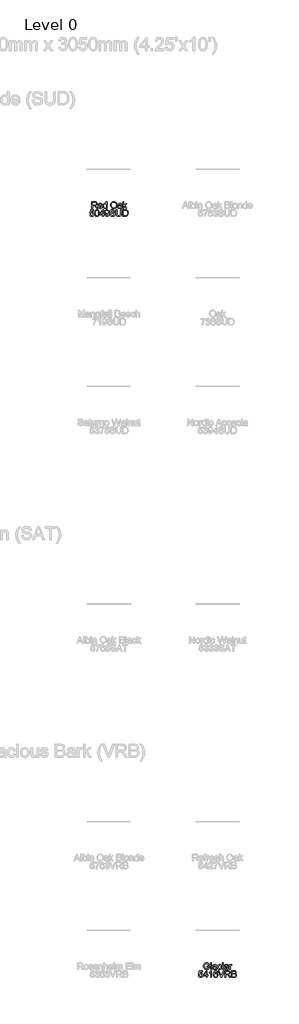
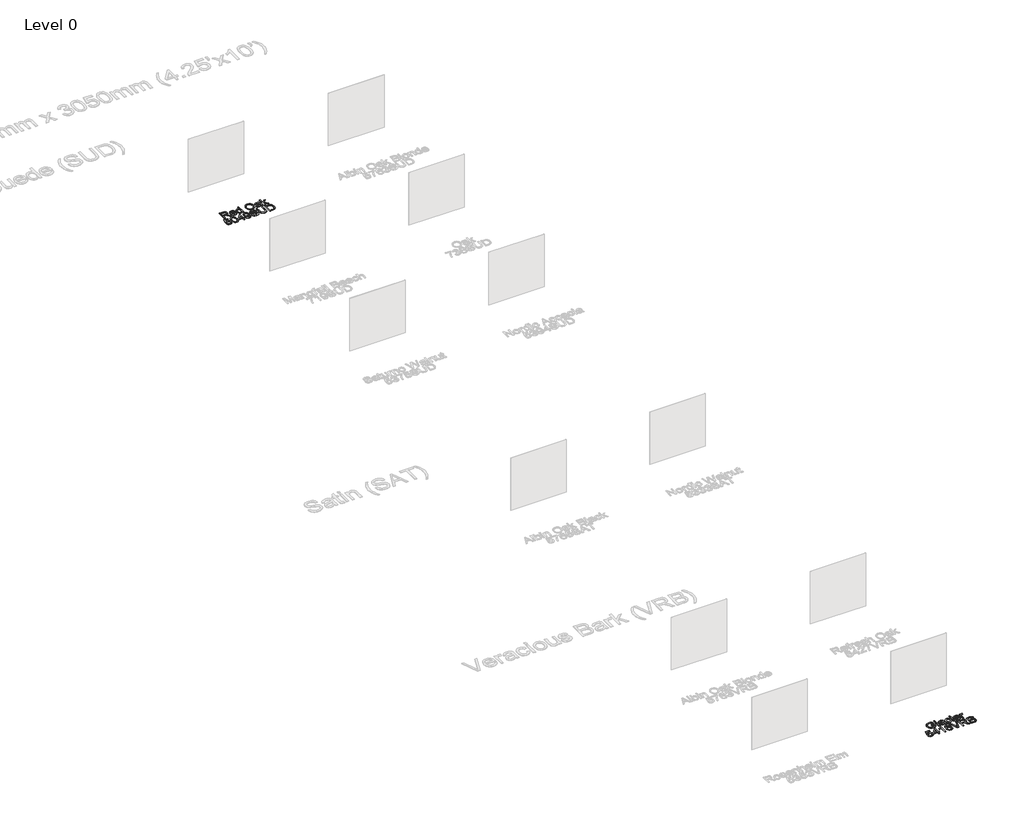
# One storey, part 14 of 43: 2 proxies.
"""IFC4 building model written with IfcOpenShell, lengths in millimetres."""

from ifc_helpers import new_model, si_unit, origin, origin_with_axes, place, context, project, spatial, polyline, outline, extrude, element, save

model = new_model("IFC4")

# Units and contexts
model_context = context("Model", 3, world=origin())
ifc_project = project(units=[si_unit("LENGTHUNIT", "METRE", prefix="MILLI")], contexts=[model_context])

# Site, building, storey
site = spatial("IfcSite", under=ifc_project)
building = spatial("IfcBuilding", under=site)
storey = spatial("IfcBuildingStorey", under=building, Name="Level 0", Elevation=0.0)

# Proxies
placement = place(None, origin())
element("IfcBuildingElementProxy", 1, Name="300mm Arial", ObjectType="300mm Arial", at=placement, inside=storey, context=model_context, shape_type="SweptSolid", body=[
    extrude(outline(polyline([(-5241.7514987, -7002.860494), (-5241.7514987, -6701.4915635), (-5111.8891544, -6701.4915635), (-5076.9863501, -6703.5241116), (-5051.5932954, -6709.6217556), (-5033.0336488, -6720.8789447), (-5018.6310687, -6738.3901276), (-5009.3880335, -6760.1043624), (-5006.3070218, -6783.9707069), (-5011.4113845, -6813.6587839), (-5026.7244726, -6838.2700893), (-5038.3242517, -6848.2994722), (-5052.7061385, -6856.3147012), (-5089.8162347, -6866.3026974), (-5068.4055026, -6882.4159288), (-5037.871297, -6921.1906911), (-4987.6186165, -7002.860494), (-5031.3965739, -7002.860494), (-5070.6127946, -6940.3941312), (-5098.9397082, -6899.0441949), (-5118.8421241, -6879.509661), (-5136.7579773, -6872.3359621), (-5158.6101678, -6871.0115869), (-5204.0803824, -6871.0115869), (-5204.0803824, -7002.860494), (-5241.7514987, -7002.860494)]), holes=[polyline([(-5204.0803824, -6833.3404706), (-5119.7618291, -6833.3404706), (-5095.5459968, -6832.0068984), (-5076.7564239, -6828.0061817), (-5062.6113612, -6821.0716061), (-5052.3290594, -6810.9364571), (-5046.0658685, -6798.6767896), (-5043.9781381, -6785.3686584), (-5047.9604607, -6766.9929528), (-5059.9074285, -6752.1857025), (-5080.462835, -6742.4184355), (-5110.2704737, -6739.1626798), (-5204.0803824, -6739.1626798), (-5204.0803824, -6833.3404706)])]), origin_with_axes(), (0.0, 0.0, 1.0), 10.0),
    extrude(outline(polyline([(-4790.1395615, -6936.9360404), (-4753.2042091, -6941.64493), (-4766.5123403, -6969.4752029), (-4787.7483285, -6990.2789297), (-4816.4339271, -7003.2467701), (-4852.0908894, -7007.5693835), (-4875.4651917, -7005.7046817), (-4896.2919112, -7000.1105761), (-4914.5710478, -6990.7870668), (-4930.3026016, -6977.7341537), (-4942.9531437, -6961.3151204), (-4951.9892452, -6941.8932503), (-4957.4109061, -6919.4685435), (-4959.2181264, -6894.0409998), (-4957.392512, -6867.7512327), (-4951.9156688, -6844.5792656), (-4942.7875968, -6824.5250983), (-4930.008296, -6807.5887309), (-4914.3181289, -6794.133447), (-4896.4574581, -6784.5225298), (-4876.4262834, -6778.7559796), (-4854.224605, -6776.8337961), (-4832.7379972, -6778.751381), (-4813.3069301, -6784.5041357), (-4795.9314036, -6794.0920602), (-4780.6114178, -6807.5151545), (-4768.1057292, -6824.4147337), (-4759.1730945, -6844.4321128), (-4753.8135137, -6867.5672917), (-4752.0269868, -6893.8202706), (-4752.247716, -6903.9738137), (-4921.5470101, -6903.9738137), (-4915.0263018, -6932.1719686), (-4899.8787606, -6952.902119), (-4878.0173731, -6965.6492302), (-4851.3551255, -6969.8982672), (-4831.3055567, -6967.9300985), (-4814.4197731, -6962.0255925), (-4800.6977747, -6951.8168672), (-4790.1395615, -6936.9360404)]), holes=[polyline([(-4921.5470101, -6866.3026974), (-4789.6981031, -6866.3026974), (-4794.7932687, -6846.4002814), (-4804.7812649, -6832.1632482), (-4826.74382, -6818.9194964), (-4854.3717578, -6814.5049125), (-4879.7648125, -6818.0273826), (-4900.7616774, -6828.5947929), (-4915.3573956, -6845.0667092), (-4921.5470101, -6866.3026974)])]), origin_with_axes(), (0.0, 0.0, 1.0), 10.0),
    extrude(outline(polyline([(-4577.7980738, -7002.860494), (-4577.7980738, -6967.3230932), (-4589.0690585, -6984.9308452), (-4602.722079, -6997.507811), (-4618.7571355, -7005.0539904), (-4637.1742279, -7007.5693835), (-4661.5280159, -7003.9273518), (-4683.8216649, -6993.0012565), (-4702.6940112, -6975.5544529), (-4716.7838916, -6952.350296), (-4725.5578772, -6924.3268851), (-4728.4825391, -6892.422319), (-4725.7878035, -6860.9132261), (-4717.7035966, -6832.4575538), (-4704.2391156, -6808.6739828), (-4685.4035574, -6791.181194), (-4662.6224649, -6780.4206456), (-4637.3213807, -6776.8337961), (-4618.8904927, -6779.3997731), (-4602.5933203, -6787.0977038), (-4588.7793514, -6798.8975188), (-4577.7980738, -6813.7691485), (-4577.7980738, -6701.4915635), (-4540.1269575, -6701.4915635), (-4540.1269575, -7002.860494), (-4577.7980738, -7002.860494)]), holes=[polyline([(-4690.8114228, -6892.2751662), (-4686.5623857, -6926.350236), (-4673.8152746, -6950.5844625), (-4655.2924161, -6965.069816), (-4633.7161371, -6969.8982672), (-4612.1490551, -6965.2905452), (-4594.0952462, -6951.4673793), (-4581.8723669, -6928.1712519), (-4577.7980738, -6895.1446458), (-4581.9459433, -6859.037028), (-4594.3895518, -6834.0026582), (-4612.9032132, -6819.3793489), (-4635.2612415, -6814.5049125), (-4657.0582497, -6819.1862108), (-4674.9189206, -6833.230106), (-4686.8382972, -6857.3539678), (-4690.8114228, -6892.2751662)])]), origin_with_axes(), (0.0, 0.0, 1.0), 10.0),
    extrude(outline(polyline([(-4375.3158237, -6856.1491543), (-4372.8050291, -6820.8002931), (-4365.2726452, -6789.5073309), (-4352.7186721, -6762.2702677), (-4335.1431098, -6739.0891034), (-4313.5990205, -6720.5800406), (-4289.1394663, -6707.3592814), (-4261.7644474, -6699.4268258), (-4231.4739636, -6696.782674), (-4191.9450432, -6701.7490809), (-4156.499613, -6716.6483017), (-4127.0690533, -6740.4318727), (-4105.5847448, -6772.0513302), (-4092.4513576, -6809.9799639), (-4088.0735619, -6852.6910636), (-4092.6812839, -6895.9723803), (-4106.5044498, -6934.4344429), (-4128.7797046, -6966.1090827), (-4158.7436931, -6989.028131), (-4193.8856207, -7002.9340704), (-4231.6946928, -7007.5693835), (-4271.8306185, -7002.4466267), (-4307.4783838, -6987.0783564), (-4336.835367, -6962.853327), (-4358.0989463, -6931.1602931), (-4371.0116044, -6894.6939903), (-4375.3158237, -6856.1491543)]), holes=[polyline([(-4337.6447074, -6856.5170363), (-4335.7616114, -6881.4916252), (-4330.1123235, -6903.661114), (-4320.6968437, -6923.0255025), (-4307.515172, -6939.5847908), (-4291.4916118, -6952.8469367), (-4273.5504668, -6962.3198981), (-4253.6917368, -6968.0036749), (-4231.915422, -6969.8982672), (-4209.7666266, -6967.9852808), (-4189.6733719, -6962.2463217), (-4171.6356578, -6952.6813898), (-4155.6534844, -6939.2904852), (-4142.5683817, -6922.381709), (-4133.2218797, -6902.2631624), (-4127.6139786, -6878.9348454), (-4125.7446782, -6852.396758), (-4128.9452515, -6819.0482551), (-4138.5469716, -6790.2247008), (-4154.301518, -6766.6526619), (-4175.9605705, -6749.0587055), (-4202.0893892, -6738.1050191), (-4231.2532344, -6734.4537903), (-4252.2730919, -6736.2127261), (-4271.7754362, -6741.4895335), (-4289.7602672, -6750.2842124), (-4306.227585, -6762.5967629), (-4319.972576, -6779.0203948), (-4329.7904268, -6800.1483176), (-4335.6811372, -6825.9805314), (-4337.6447074, -6856.5170363)])]), origin_with_axes(), (0.0, 0.0, 1.0), 10.0),
    extrude(outline(polyline([(-3899.7179803, -6974.6071568), (-3917.7166069, -6990.0398064), (-3936.2486625, -7000.1381672), (-3955.7372111, -7005.7115794), (-3976.6053173, -7007.5693835), (-4008.0868191, -7003.0996173), (-4031.30937, -6989.6903186), (-4045.6291767, -6969.3280501), (-4050.4024456, -6943.9993748), (-4048.5998238, -6928.3827841), (-4043.1919584, -6914.2009331), (-4034.8502342, -6902.0608273), (-4024.2460357, -6892.5694718), (-3997.8688966, -6880.2086368), (-3965.2745519, -6874.5432541), (-3926.757307, -6868.5835657), (-3899.9387095, -6861.5938078), (-3899.7179803, -6853.2060983), (-3902.3115484, -6836.3938912), (-3910.0922526, -6825.3942195), (-3927.493071, -6817.2272392), (-3951.7364944, -6814.5049125), (-3974.1772962, -6816.3167313), (-3989.8490691, -6821.7521878), (-4000.5360411, -6831.8045633), (-4008.0224397, -6847.4671392), (-4045.693556, -6842.7582497), (-4039.1544536, -6822.156858), (-4029.3963836, -6805.9700502), (-4015.5088383, -6793.590821), (-3996.5813097, -6784.4121652), (-3973.4323351, -6778.7283884), (-3946.8804521, -6776.8337961), (-3921.413821, -6778.5076592), (-3901.2262965, -6783.5292485), (-3886.005179, -6791.0800264), (-3875.4377686, -6800.3414556), (-3868.4296166, -6811.7917827), (-3863.886274, -6825.9092543), (-3862.046864, -6858.8714811), (-3862.046864, -6905.7396473), (-3860.1338776, -6971.1858542), (-3852.6290849, -7002.860494), (-3890.3002013, -7002.860494), (-3899.7179803, -6974.6071568)]), holes=[polyline([(-3899.7179803, -6899.2649241), (-3960.4920859, -6910.8164188), (-3992.9024897, -6916.9232599), (-4007.5809813, -6926.8560738), (-4012.7313292, -6941.3506244), (-4009.926229, -6952.5526311), (-4001.5109284, -6961.7312869), (-3987.6693683, -6967.8565221), (-3968.5854898, -6969.8982672), (-3948.3519801, -6967.64499), (-3930.4729151, -6960.8851583), (-3915.9783645, -6950.9247533), (-3905.8983978, -6939.069756), (-3901.4286316, -6926.8560738), (-3899.9387095, -6909.933502), (-3899.7179803, -6899.2649241)])]), origin_with_axes(), (0.0, 0.0, 1.0), 10.0),
    extrude(outline(polyline([(-3810.2490791, -7002.860494), (-3810.2490791, -6701.4915635), (-3772.5779628, -6701.4915635), (-3772.5779628, -6863.4332178), (-3688.1122567, -6781.5426857), (-3636.0201662, -6781.5426857), (-3721.5159419, -6864.4632874), (-3631.3112766, -7002.860494), (-3675.3099633, -7002.860494), (-3748.5184803, -6890.6564855), (-3772.5779628, -6913.9802039), (-3772.5779628, -7002.860494), (-3810.2490791, -7002.860494)])), origin_with_axes(), (0.0, 0.0, 1.0), 10.0),
    extrude(outline(polyline([(-5333.5748447, -7288.7338254), (-5295.9037284, -7284.0249358), (-5288.9875469, -7306.6404815), (-5276.9210175, -7322.8364863), (-5259.7593224, -7332.5761621), (-5237.557644, -7335.8227207), (-5210.5551055, -7331.3069693), (-5190.3215958, -7317.7597148), (-5177.6848493, -7296.7444558), (-5173.4726004, -7269.8246908), (-5177.4181348, -7244.4776213), (-5189.254738, -7225.0902402), (-5209.0743805, -7212.7845875), (-5236.9690328, -7208.6827032), (-5255.2435709, -7210.3197781), (-5270.0416242, -7215.2310027), (-5291.1948389, -7232.2271509), (-5328.8659552, -7227.5182614), (-5295.9037284, -7072.1249066), (-5149.9281527, -7072.1249066), (-5149.9281527, -7109.7960229), (-5265.4430992, -7109.7960229), (-5281.5563306, -7192.790201), (-5254.6457627, -7176.4562404), (-5226.4476077, -7171.0115869), (-5208.1017925, -7172.6992456), (-5191.2504978, -7177.7622215), (-5175.8937238, -7186.2005148), (-5162.0314704, -7198.0141254), (-5150.5558514, -7212.4810848), (-5142.3589807, -7228.8794248), (-5137.4408583, -7247.2091452), (-5135.8014841, -7267.470246), (-5141.7059901, -7305.1413624), (-5149.0866227, -7321.9351754), (-5159.4195082, -7337.3678251), (-5175.0728871, -7353.1729553), (-5193.3382282, -7364.4623341), (-5214.2155314, -7371.2359613), (-5237.7047968, -7373.4938371), (-5274.7045285, -7367.6904986), (-5290.3831992, -7360.4363255), (-5304.1810733, -7350.2804832), (-5315.6612908, -7337.7288093), (-5324.3869919, -7323.2871418), (-5333.5748447, -7288.7338254)])), origin_with_axes(), (0.0, 0.0, 1.0), 10.0),
    extrude(outline(polyline([(-5102.8392574, -7220.5285035), (-5100.0709453, -7172.2899768), (-5091.7660093, -7133.8187172), (-5078.0072227, -7104.5261133), (-5058.8773589, -7083.8235541), (-5034.2384623, -7071.5179013), (-5003.9525771, -7067.4160171), (-4980.7392232, -7069.8440382), (-4959.9538904, -7077.1281017), (-4942.5714662, -7088.983099), (-4929.5668376, -7105.1239216), (-4919.7443884, -7125.4126136), (-4911.9085019, -7149.7112194), (-4906.776548, -7180.5673217), (-4905.0658967, -7220.5285035), (-4907.8066176, -7268.4911186), (-4916.0287802, -7306.8704077), (-4929.7047934, -7336.1906027), (-4948.807066, -7356.9759355), (-4973.5011449, -7369.3643617), (-5003.9525771, -7373.4938371), (-5024.7011216, -7371.7004123), (-5043.0952213, -7366.3201381), (-5059.1348763, -7357.3530145), (-5072.8200866, -7344.7990414), (-5085.9534738, -7322.1053209), (-5095.3344647, -7293.828991), (-5100.9630592, -7259.9700519), (-5102.8392574, -7220.5285035)]), holes=[polyline([(-5065.1681411, -7220.4549271), (-5060.7535571, -7279.7115194), (-5055.2353272, -7299.9795181), (-5047.5098053, -7314.0073184), (-5027.7913303, -7330.3688702), (-5003.9525771, -7335.8227207), (-4980.1138238, -7330.3504761), (-4960.3953488, -7313.933742), (-4952.6698269, -7299.8829491), (-4947.151597, -7279.6195489), (-4942.7370131, -7220.4549271), (-4947.0044442, -7162.5319069), (-4952.3387331, -7142.3305869), (-4959.8067376, -7127.9693935), (-4979.4884244, -7110.8076984), (-5004.3940354, -7105.0871334), (-5027.9752713, -7110.1271167), (-5046.9211941, -7125.2470667), (-5054.9042334, -7140.8820515), (-5060.6064043, -7161.9616898), (-5065.1681411, -7220.4549271)])]), origin_with_axes(), (0.0, 0.0, 1.0), 10.0),
    extrude(outline(polyline([(-4749.672542, -7368.7849475), (-4749.672542, -7298.1516044), (-4886.2303386, -7298.1516044), (-4886.2303386, -7260.4804881), (-4740.2547629, -7072.1249066), (-4712.0014257, -7072.1249066), (-4712.0014257, -7260.4804881), (-4674.3303094, -7260.4804881), (-4674.3303094, -7298.1516044), (-4712.0014257, -7298.1516044), (-4712.0014257, -7368.7849475), (-4749.672542, -7368.7849475)]), holes=[polyline([(-4749.672542, -7260.4804881), (-4749.672542, -7144.0826249), (-4839.8772072, -7260.4804881), (-4749.672542, -7260.4804881)])]), origin_with_axes(), (0.0, 0.0, 1.0), 10.0),
    extrude(outline(polyline([(-4636.6591931, -7293.4427149), (-4598.9880768, -7288.7338254), (-4592.5501418, -7310.1169663), (-4582.065505, -7324.6758963), (-4567.7916836, -7333.0360146), (-4549.986195, -7335.8227207), (-4534.0109194, -7334.029296), (-4519.4887776, -7328.6490218), (-4507.4222482, -7320.2705094), (-4498.8138095, -7309.4823699), (-4486.4897626, -7276.7408723), (-4481.0451091, -7233.0364913), (-4481.2658383, -7225.6788514), (-4494.3164521, -7241.6081418), (-4511.3953737, -7254.2264942), (-4531.2701985, -7262.4486568), (-4552.7085218, -7265.1893777), (-4570.6036816, -7263.5155146), (-4587.0595031, -7258.4939254), (-4602.0759863, -7250.12461), (-4615.6531311, -7238.4075684), (-4626.9034224, -7223.9544045), (-4634.9393447, -7207.3767221), (-4639.7608981, -7188.6745212), (-4641.3680826, -7167.8478018), (-4639.6827232, -7146.326705), (-4634.626645, -7127.0129003), (-4626.1998481, -7109.9063875), (-4614.4023324, -7095.0071667), (-4600.0664309, -7082.9360387), (-4584.0244766, -7074.3138045), (-4566.2764696, -7069.1404639), (-4546.8224098, -7067.4160171), (-4518.7254225, -7071.3523544), (-4493.1484268, -7083.1613665), (-4471.7560887, -7102.254442), (-4456.2130744, -7128.0429699), (-4446.7493101, -7163.6907352), (-4443.594722, -7212.3615232), (-4446.7401131, -7263.96617), (-4456.1762862, -7303.8537754), (-4471.8204681, -7333.8269609), (-4493.5898851, -7355.6883485), (-4520.5464383, -7369.0424649), (-4551.7520286, -7373.4938371), (-4583.9600973, -7368.2423216), (-4609.6566546, -7352.4877751), (-4627.6276901, -7327.2234791), (-4636.6591931, -7293.4427149)]), holes=[polyline([(-4481.2658383, -7166.964885), (-4485.3309344, -7141.4338745), (-4497.5262225, -7121.788976), (-4516.4537511, -7109.262594), (-4540.7155687, -7105.0871334), (-4565.8786972, -7109.5844908), (-4586.0386305, -7123.0765629), (-4599.2823824, -7143.7239399), (-4603.6969663, -7169.6872117), (-4599.5215057, -7192.964945), (-4586.9951237, -7211.4418182), (-4567.3318311, -7223.4991506), (-4541.7456383, -7227.5182614), (-4517.6769588, -7223.4991506), (-4498.2987747, -7211.4418182), (-4485.5240724, -7192.2843633), (-4481.2658383, -7166.964885)])]), origin_with_axes(), (0.0, 0.0, 1.0), 10.0),
    extrude(outline(polyline([(-4410.6324952, -7265.1893777), (-4372.9613789, -7265.1893777), (-4368.6387655, -7286.0942721), (-4360.8212731, -7302.8972822), (-4348.6259849, -7316.2330045), (-4331.1699843, -7326.7360355), (-4309.8328286, -7333.5510494), (-4285.9940753, -7335.8227207), (-4265.0064074, -7334.1028724), (-4246.6307018, -7328.9433274), (-4231.740678, -7320.7763471), (-4221.2100559, -7310.0341929), (-4214.9468649, -7297.700949), (-4212.8591346, -7284.7606998), (-4214.4226331, -7272.1515444), (-4219.1131285, -7261.2530403), (-4228.6412722, -7251.9548229), (-4244.7177154, -7244.1465276), (-4299.5689209, -7229.7623415), (-4335.5753712, -7220.2433949), (-4358.6139811, -7211.1843008), (-4377.3667658, -7198.510766), (-4390.6565029, -7183.1516928), (-4398.5751628, -7165.4381747), (-4401.2147162, -7145.7013056), (-4397.9497634, -7123.637583), (-4388.1549053, -7103.0637824), (-4372.0876592, -7085.6261758), (-4350.0055424, -7072.9710352), (-4323.4996447, -7065.2731044), (-4294.1610556, -7062.7071275), (-4262.3760512, -7065.3926661), (-4234.5641723, -7073.4492818), (-4211.7187004, -7086.7114277), (-4194.8329169, -7105.013557), (-4184.1459449, -7127.2152354), (-4179.8969079, -7152.1760288), (-4217.5680242, -7152.1760288), (-4224.4842057, -7129.6984389), (-4238.9051799, -7113.4748429), (-4261.4379521, -7103.6523936), (-4292.6895276, -7100.3782438), (-4324.6768671, -7103.6156054), (-4346.6210281, -7113.3276901), (-4359.3129569, -7127.6199056), (-4363.5435998, -7144.5976597), (-4360.5453616, -7159.0738162), (-4351.5506468, -7170.7172813), (-4330.2870675, -7181.1283418), (-4290.0407772, -7191.7601314), (-4248.5069, -7201.8584922), (-4223.3805597, -7210.669266), (-4201.9054482, -7224.3360821), (-4186.923454, -7241.2034716), (-4178.1218772, -7261.0874934), (-4175.1880183, -7283.8042066), (-4178.5633356, -7307.0267576), (-4188.6892875, -7328.869751), (-4205.1520068, -7347.668521), (-4227.5376262, -7361.7584014), (-4254.4573912, -7370.5599781), (-4284.5225473, -7373.4938371), (-4321.4303085, -7370.3300519), (-4351.8081642, -7360.8386964), (-4376.0056024, -7344.9829824), (-4394.372111, -7322.7261217), (-4406.162729, -7295.6132187), (-4410.6324952, -7265.1893777)])), origin_with_axes(), (0.0, 0.0, 1.0), 10.0),
    extrude(outline(polyline([(-3920.9079833, -7067.4160171), (-3883.2368669, -7067.4160171), (-3883.2368669, -7241.277048), (-3885.7936468, -7281.9923878), (-3893.4639864, -7313.3451308), (-3907.7929901, -7337.533372), (-3930.3257623, -7356.7552063), (-3961.1174853, -7369.3091794), (-4000.2233414, -7373.4938371), (-4038.4738719, -7369.8518053), (-4069.0540627, -7358.92571), (-4091.973111, -7341.0926303), (-4107.2402138, -7316.7296452), (-4115.8210613, -7284.052527), (-4118.6813439, -7241.277048), (-4118.6813439, -7067.4160171), (-4081.0102276, -7067.4160171), (-4081.0102276, -7239.9526728), (-4079.1524235, -7273.8070134), (-4073.5790113, -7297.3790523), (-4063.4806505, -7313.7038158), (-4048.0480008, -7325.8163305), (-4027.9248556, -7333.3211232), (-4003.7550086, -7335.8227207), (-3965.4400988, -7330.8747079), (-3951.0972995, -7324.6896919), (-3939.9642706, -7316.0306694), (-3931.6271449, -7303.8537754), (-3925.6720551, -7287.1151446), (-3920.9079833, -7239.9526728), (-3920.9079833, -7067.4160171)])), origin_with_axes(), (0.0, 0.0, 1.0), 10.0),
    extrude(outline(polyline([(-3817.3124134, -7368.7849475), (-3817.3124134, -7067.4160171), (-3713.3489616, -7067.4160171), (-3659.5646139, -7071.7570246), (-3635.5419196, -7080.12634), (-3615.2716217, -7093.3149095), (-3594.4311066, -7116.270746), (-3579.5870681, -7144.8183889), (-3570.7027179, -7178.406015), (-3567.7412679, -7216.4818015), (-3569.7462248, -7248.8278259), (-3575.7610954, -7277.2926953), (-3584.9213571, -7301.5269217), (-3596.3624871, -7321.1810173), (-3609.5326625, -7336.6964405), (-3623.8800603, -7348.5146496), (-3640.3519767, -7357.2794381), (-3659.8957077, -7363.6345996), (-3708.3457664, -7368.7849475), (-3817.3124134, -7368.7849475)]), holes=[polyline([(-3779.6412971, -7331.1138312), (-3712.9810796, -7331.1138312), (-3685.408324, -7329.7526678), (-3664.4942326, -7325.6691777), (-3648.712095, -7319.1024841), (-3636.535201, -7310.2917103), (-3623.447799, -7293.9853408), (-3613.6161527, -7272.8781114), (-3607.4633263, -7246.8780514), (-3605.4123842, -7215.8931903), (-3609.431495, -7174.8375597), (-3621.4888274, -7144.5240833), (-3639.303513, -7123.7019623), (-3660.5946835, -7111.1203981), (-3682.262933, -7106.5954496), (-3714.0111492, -7105.0871334), (-3779.6412971, -7105.0871334), (-3779.6412971, -7331.1138312)])]), origin_with_axes(), (0.0, 0.0, 1.0), 10.0),
])
element("IfcBuildingElementProxy", 2, Name="300mm Arial", ObjectType="300mm Arial", at=placement, inside=storey, context=model_context, shape_type="SweptSolid", body=[
    extrude(outline(polyline([(59.6174317, -41912.3081367), (59.6174317, -41874.6370204), (182.0485597, -41874.6370204), (182.0485597, -41987.2824873), (152.2961033, -42007.9758495), (121.6055479, -42022.819888), (90.0504698, -42031.7594205), (57.7044453, -42034.7392647), (15.4440011, -42030.002784), (-22.751347, -42015.7933419), (-54.4811691, -41992.6075792), (-77.3450351, -41960.9421364), (-91.1682011, -41922.9583204), (-95.775923, -41880.8174379), (-91.1865952, -41838.3730527), (-77.4186115, -41798.8901176), (-55.0421891, -41765.7715409), (-24.6275452, -41742.4202313), (12.4181717, -41728.5694742), (54.687813, -41723.9525551), (85.7186593, -41726.6288966), (113.6225086, -41734.6579212), (137.120971, -41747.4602146), (154.9356567, -41764.4563628), (168.1150291, -41786.4649032), (177.7075522, -41814.3043731), (142.9794918, -41824.0900342), (135.2263788, -41804.2336035), (125.7994026, -41789.2516093), (113.328203, -41777.957632), (96.4424194, -41769.1652523), (76.3100772, -41763.5090667), (54.0992018, -41761.6236714), (28.0991418, -41763.6562195), (5.8698722, -41769.7538635), (-12.5058334, -41779.1532485), (-26.9452018, -41791.0910193), (-46.3325829, -41820.1169087), (-55.1617508, -41848.5541869), (-58.1048067, -41879.2723335), (-54.5639425, -41915.2971779), (-43.9413499, -41944.9392696), (-26.5589257, -41967.9870766), (-2.7385665, -41984.2290667), (25.1376917, -41993.8583779), (54.687813, -41997.0681484), (80.7798435, -41994.6493242), (106.2280805, -41987.3928519), (128.3285914, -41977.3956587), (144.3774434, -41966.754672), (144.3774434, -41912.3081367), (59.6174317, -41912.3081367)])), origin_with_axes(), (0.0, 0.0, 1.0), 10.0),
    extrude(outline(polyline([(238.5552342, -42030.0303751), (238.5552342, -41728.6614447), (276.2263505, -41728.6614447), (276.2263505, -42030.0303751), (238.5552342, -42030.0303751)])), origin_with_axes(), (0.0, 0.0, 1.0), 10.0),
    extrude(outline(polyline([(473.9997111, -42001.7770379), (456.0010845, -42017.2096876), (437.469029, -42027.3080484), (417.9804803, -42032.8814606), (397.1123741, -42034.7392647), (365.6308724, -42030.2694984), (342.4083214, -42016.8601997), (328.0885147, -41996.4979313), (323.3152459, -41971.1692559), (325.1178676, -41955.5526652), (330.525733, -41941.3708143), (338.8674572, -41929.2307084), (349.4716557, -41919.739353), (375.8487948, -41907.3785179), (408.4431395, -41901.7131352), (446.9603844, -41895.7534469), (473.7789819, -41888.763689), (473.9997111, -41880.3759795), (471.406143, -41863.5637723), (463.6254388, -41852.5641006), (446.2246204, -41844.3971204), (421.981197, -41841.6747936), (399.5403953, -41843.4866124), (383.8686223, -41848.9220689), (373.1816503, -41858.9744444), (365.6952517, -41874.6370204), (328.0241354, -41869.9281308), (334.5632379, -41849.3267391), (344.3213078, -41833.1399313), (358.2088531, -41820.7607022), (377.1363818, -41811.5820464), (400.2853563, -41805.8982696), (426.8372393, -41804.0036773), (452.3038704, -41805.6775404), (472.4913949, -41810.6991296), (487.7125125, -41818.2499075), (498.2799228, -41827.5113368), (505.2880748, -41838.9616639), (509.8314174, -41853.0791354), (511.6708274, -41886.0413622), (511.6708274, -41932.9095284), (513.5838138, -41998.3557353), (521.0886065, -42030.0303751), (483.4174902, -42030.0303751), (473.9997111, -42001.7770379)]), holes=[polyline([(473.9997111, -41926.4348053), (413.2256055, -41937.9862999), (380.8152017, -41944.093141), (366.1367101, -41954.0259549), (360.9863622, -41968.5205055), (363.7914624, -41979.7225123), (372.206763, -41988.9011681), (386.0483231, -41995.0264033), (405.1322016, -41997.0681484), (425.3657113, -41994.8148711), (443.2447763, -41988.0550395), (457.7393269, -41978.0946345), (467.8192936, -41966.2396372), (472.2890598, -41954.0259549), (473.7789819, -41937.1033831), (473.9997111, -41926.4348053)])]), origin_with_axes(), (0.0, 0.0, 1.0), 10.0),
    extrude(outline(polyline([(704.7352985, -41949.979253), (742.4064148, -41954.6881425), (731.9033838, -41988.1929952), (712.1665148, -42013.5124735), (685.0536117, -42029.4325669), (652.4224787, -42034.7392647), (631.2945559, -42032.8883584), (612.3509324, -42027.3356395), (595.5916083, -42018.0811081), (581.0165835, -42005.124764), (569.2190677, -41988.7103293), (560.7922708, -41969.0815256), (555.7361926, -41946.2383529), (554.0508332, -41920.1808114), (556.9295098, -41886.6575646), (565.5655397, -41857.604084), (580.0968785, -41834.1424097), (600.661482, -41817.3945819), (625.2635904, -41807.3514034), (651.9074439, -41804.0036773), (683.7384336, -41808.6022022), (709.1866706, -41822.397777), (727.4428146, -41844.6546378), (737.6975252, -41874.6370204), (700.0264089, -41879.3459099), (693.1930009, -41862.9107818), (682.5520141, -41851.1293609), (668.69206, -41844.0384354), (652.2017495, -41841.6747936), (627.8571585, -41846.3285008), (608.5341567, -41860.2896225), (595.9250013, -41884.3123168), (591.7219495, -41919.1507418), (595.8330308, -41954.4582163), (608.1662747, -41978.563684), (627.1397886, -41992.4420323), (651.17168, -41997.0681484), (670.6786228, -41994.1802747), (686.6722925, -41985.5166537), (698.3065606, -41970.8565562), (704.7352985, -41949.979253)])), origin_with_axes(), (0.0, 0.0, 1.0), 10.0),
    extrude(outline(polyline([(775.3686415, -41766.332561), (775.3686415, -41728.6614447), (813.0397578, -41728.6614447), (813.0397578, -41766.332561), (775.3686415, -41766.332561)])), origin_with_axes(), (0.0, 0.0, 1.0), 10.0),
    extrude(outline(polyline([(775.3686415, -42030.0303751), (775.3686415, -41808.7125668), (813.0397578, -41808.7125668), (813.0397578, -42030.0303751), (775.3686415, -42030.0303751)])), origin_with_axes(), (0.0, 0.0, 1.0), 10.0),
    extrude(outline(polyline([(1024.4983287, -41964.1059216), (1061.433681, -41968.8148111), (1048.1255498, -41996.6450841), (1026.8895616, -42017.4488109), (998.2039631, -42030.4166512), (962.5470007, -42034.7392647), (939.1726984, -42032.8745628), (918.345979, -42027.2804572), (900.0668423, -42017.9569479), (884.3352885, -42004.9040349), (871.6847464, -41988.4850016), (862.6486449, -41969.0631315), (857.226984, -41946.6384246), (855.4197637, -41921.2108809), (857.2453781, -41894.9211139), (862.7222213, -41871.7491467), (871.8502933, -41851.6949794), (884.6295941, -41834.7586121), (900.3197612, -41821.3033281), (918.1804321, -41811.692411), (938.2116067, -41805.9258607), (960.4132851, -41804.0036773), (981.8998929, -41805.9212622), (1001.33096, -41811.6740169), (1018.7064865, -41821.2619414), (1034.0264723, -41834.6850357), (1046.5321609, -41851.5846148), (1055.4647956, -41871.6019939), (1060.8243764, -41894.7371729), (1062.6109034, -41920.9901518), (1062.3901742, -41931.1436948), (893.09088, -41931.1436948), (899.6115884, -41959.3418497), (914.7591295, -41980.0720002), (936.6205171, -41992.8191113), (963.2827647, -41997.0681484), (983.3323334, -41995.0999797), (1000.218117, -41989.1954737), (1013.9401154, -41978.9867483), (1024.4983287, -41964.1059216)]), holes=[polyline([(893.09088, -41893.4725785), (1024.9397871, -41893.4725785), (1019.8446214, -41873.5701626), (1009.8566253, -41859.3331294), (987.8940701, -41846.0893775), (960.2661323, -41841.6747936), (934.8730776, -41845.1972637), (913.8762127, -41855.764674), (899.2804946, -41872.2365903), (893.09088, -41893.4725785)])]), origin_with_axes(), (0.0, 0.0, 1.0), 10.0),
    extrude(outline(polyline([(1100.2820197, -42030.0303751), (1100.2820197, -41808.7125668), (1133.2442464, -41808.7125668), (1133.2442464, -41841.4540644), (1145.4211405, -41822.4713534), (1156.6415413, -41811.2877408), (1167.8987304, -41805.8246932), (1180.185989, -41804.0036773), (1198.9479708, -41806.909945), (1218.0042581, -41815.6287483), (1205.4226939, -41849.4003155), (1192.1789421, -41843.6061741), (1178.9351902, -41841.6747936), (1167.6871982, -41843.5325977), (1157.6348227, -41849.1060099), (1149.5138277, -41857.971966), (1144.0599771, -41869.7074016), (1139.4798463, -41890.7502517), (1137.953136, -41913.7060882), (1137.953136, -42030.0303751), (1100.2820197, -42030.0303751)])), origin_with_axes(), (0.0, 0.0, 1.0), 10.0),
    extrude(outline(polyline([(-321.8026209, -42315.9037065), (-284.1315046, -42311.194817), (-277.2153231, -42333.8103626), (-265.1487936, -42350.0063675), (-247.9870986, -42359.7460433), (-225.7854201, -42362.9926019), (-198.7828817, -42358.4768504), (-178.549372, -42344.9295959), (-165.9126254, -42323.914337), (-161.7003766, -42296.994572), (-165.645911, -42271.6475025), (-177.4825142, -42252.2601213), (-197.3021567, -42239.9544686), (-225.196809, -42235.8525844), (-243.4713471, -42237.4896592), (-258.2694003, -42242.4008839), (-279.422615, -42259.397032), (-317.0937313, -42254.6881425), (-284.1315046, -42099.2947877), (-138.1559289, -42099.2947877), (-138.1559289, -42136.9659041), (-253.6708754, -42136.9659041), (-269.7841068, -42219.9600822), (-242.8735388, -42203.6261216), (-214.6753839, -42198.181468), (-196.3295686, -42199.8691267), (-179.478274, -42204.9321027), (-164.1215, -42213.3703959), (-150.2592465, -42225.1840065), (-138.7836275, -42239.650966), (-130.5867568, -42256.0493059), (-125.6686344, -42274.3790263), (-124.0292603, -42294.6401272), (-129.9337663, -42332.3112435), (-137.3143988, -42349.1050566), (-147.6472844, -42364.5377063), (-163.3006633, -42380.3428365), (-181.5660043, -42391.6322152), (-202.4433076, -42398.4058424), (-225.9325729, -42400.6637182), (-262.9323046, -42394.8603797), (-278.6109754, -42387.6062066), (-292.4088495, -42377.4503643), (-303.889067, -42364.8986905), (-312.6147681, -42350.4570229), (-321.8026209, -42315.9037065)])), origin_with_axes(), (0.0, 0.0, 1.0), 10.0),
    extrude(outline(polyline([(31.3640945, -42395.9548287), (31.3640945, -42325.3214856), (-105.1937021, -42325.3214856), (-105.1937021, -42287.6503693), (40.7818736, -42099.2947877), (69.0352108, -42099.2947877), (69.0352108, -42287.6503693), (106.7063271, -42287.6503693), (106.7063271, -42325.3214856), (69.0352108, -42325.3214856), (69.0352108, -42395.9548287), (31.3640945, -42395.9548287)]), holes=[polyline([(31.3640945, -42287.6503693), (31.3640945, -42171.252506), (-58.8405707, -42287.6503693), (31.3640945, -42287.6503693)])]), origin_with_axes(), (0.0, 0.0, 1.0), 10.0),
    extrude(outline(polyline([(280.93524, -42395.9548287), (243.2641237, -42395.9548287), (243.2641237, -42161.0989629), (207.5795702, -42186.5196088), (167.9218911, -42205.539108), (167.9218911, -42169.9281308), (197.5088006, -42153.8332935), (223.1409786, -42134.6850357), (243.3468972, -42114.3227672), (256.6550283, -42094.5858982), (280.93524, -42094.5858982), (280.93524, -42395.9548287)])), origin_with_axes(), (0.0, 0.0, 1.0), 10.0),
    extrude(outline(polyline([(563.4686123, -42174.6370204), (525.797496, -42179.3459099), (519.7274431, -42160.6758986), (511.5236746, -42147.9287875), (494.4355559, -42136.1749578), (473.7789819, -42132.2570145), (456.2677989, -42134.5378829), (439.7866855, -42141.380488), (425.6324258, -42155.7922652), (414.0717341, -42175.6303017), (406.2634387, -42203.6905009), (403.366368, -42242.7687659), (418.477121, -42225.1380212), (436.5861122, -42212.7128069), (456.6816662, -42205.3459699), (477.7521074, -42202.8903576), (495.8519016, -42204.5688192), (512.5537442, -42209.604204), (527.8576352, -42217.996512), (541.7635746, -42229.7457432), (553.3196678, -42244.1529219), (561.57402, -42260.5190721), (566.5266314, -42278.844194), (568.1775018, -42299.1282875), (565.068899, -42326.1032348), (555.7430904, -42351.1100134), (540.9726283, -42372.3184105), (521.5300649, -42387.898213), (498.2983169, -42397.4723419), (472.1603011, -42400.6637182), (449.7034046, -42398.5483967), (429.4216103, -42392.2024323), (411.3149184, -42381.6258249), (395.3833287, -42366.8185746), (382.394795, -42347.155282), (373.117271, -42322.0105476), (367.5507565, -42291.3843715), (365.6952517, -42255.2767537), (367.7553909, -42214.7959387), (373.9358084, -42180.2472208), (384.2365043, -42151.6306001), (398.6574785, -42128.9460766), (414.2878647, -42113.9134985), (432.4106515, -42103.1759428), (453.0258388, -42096.7334094), (476.1334267, -42094.5858982), (509.1876239, -42099.901793), (535.6567335, -42115.8494775), (554.197986, -42141.1781529), (563.4686123, -42174.6370204)]), holes=[polyline([(403.366368, -42298.5396763), (405.5460688, -42315.2323219), (412.0851713, -42331.1708093), (422.2387144, -42344.8744136), (435.261737, -42354.8624098), (450.9794952, -42360.9600539), (469.2172451, -42362.9926019), (494.076871, -42358.780353), (513.620602, -42346.1436065), (526.2849396, -42326.2779788), (530.5063855, -42300.3790863), (526.3401219, -42275.5194605), (513.8413312, -42256.5643407), (493.9665064, -42244.5621906), (467.6721408, -42240.5614739), (442.8493031, -42244.5621906), (422.0915616, -42256.5643407), (408.0476664, -42275.059608), (403.366368, -42298.5396763)])]), origin_with_axes(), (0.0, 0.0, 1.0), 10.0),
    extrude(outline(polyline([(704.2938401, -42395.9548287), (584.3643096, -42094.5858982), (624.6841763, -42094.5858982), (704.9560277, -42311.7098518), (721.2164118, -42360.6381571), (737.2560668, -42311.7098518), (817.7486474, -42094.5858982), (858.068514, -42094.5858982), (743.2157552, -42395.9548287), (704.2938401, -42395.9548287)])), origin_with_axes(), (0.0, 0.0, 1.0), 10.0),
    extrude(outline(polyline([(893.09088, -42395.9548287), (893.09088, -42094.5858982), (1022.9532243, -42094.5858982), (1057.8560286, -42096.6184462), (1083.2490833, -42102.7160903), (1101.8087299, -42113.9732794), (1116.2113101, -42131.4844623), (1125.4543452, -42153.1986971), (1128.5353569, -42177.0650415), (1123.4309942, -42206.7531185), (1108.1179062, -42231.364424), (1096.518127, -42241.3938069), (1082.1362403, -42249.4090359), (1045.026144, -42259.397032), (1066.4368761, -42275.5102634), (1096.9710817, -42314.2850257), (1147.2237623, -42395.9548287), (1103.4458048, -42395.9548287), (1064.2295841, -42333.4884659), (1035.9026705, -42292.1385296), (1016.0002546, -42272.6039957), (998.0844014, -42265.4302968), (976.2322109, -42264.1059216), (930.7619963, -42264.1059216), (930.7619963, -42395.9548287), (893.09088, -42395.9548287)]), holes=[polyline([(930.7619963, -42226.4348053), (1015.0805496, -42226.4348053), (1039.2963819, -42225.101233), (1058.0859548, -42221.1005163), (1072.2310175, -42214.1659407), (1082.5133193, -42204.0307918), (1088.7765103, -42191.7711243), (1090.8642406, -42178.4629931), (1086.881918, -42160.0872874), (1074.9349502, -42145.2800371), (1054.3795437, -42135.5127702), (1024.5719051, -42132.2570145), (930.7619963, -42132.2570145), (930.7619963, -42226.4348053)])]), origin_with_axes(), (0.0, 0.0, 1.0), 10.0),
    extrude(outline(polyline([(1194.4598104, -42395.9548287), (1194.4598104, -42094.5858982), (1309.4597221, -42094.5858982), (1341.0883767, -42096.8023872), (1365.7824556, -42103.4518543), (1384.7099842, -42114.6998463), (1399.038988, -42130.7119101), (1408.0612939, -42149.5474683), (1411.0687292, -42169.2659432), (1408.5395405, -42187.4117226), (1400.9519743, -42204.4722502), (1388.2508484, -42219.3990621), (1370.3809805, -42231.1436948), (1391.7273333, -42242.2905193), (1407.5002738, -42259.2498792), (1417.2399497, -42280.8997347), (1420.4865083, -42306.1180454), (1418.2700193, -42327.1333044), (1411.6205522, -42346.6218531), (1401.6969354, -42363.194937), (1389.6579971, -42375.4638015), (1374.9151261, -42384.3481517), (1356.8797113, -42390.7676925), (1308.5768053, -42395.9548287), (1194.4598104, -42395.9548287)]), holes=[polyline([(1232.1309267, -42217.0170262), (1300.9248598, -42217.0170262), (1341.0975737, -42213.7796646), (1355.159863, -42208.1970554), (1365.2674208, -42199.836937), (1371.3650649, -42188.8280683), (1373.3976129, -42175.2992079), (1371.5030206, -42162.1658207), (1365.8192438, -42150.7246907), (1356.6037998, -42141.7943552), (1344.1142061, -42136.1933519), (1295.7009355, -42132.2570145), (1232.1309267, -42132.2570145), (1232.1309267, -42217.0170262)]), polyline([(1232.1309267, -42358.2837124), (1309.3861457, -42358.2837124), (1337.3451774, -42356.8121844), (1360.9999897, -42348.6084159), (1376.6717626, -42331.8697851), (1381.2794846, -42320.042379), (1382.815392, -42306.4859274), (1381.0127702, -42290.740578), (1375.6049049, -42277.2025206), (1366.1595346, -42266.6167162), (1352.2443982, -42259.7281258), (1332.5351203, -42255.9481383), (1305.7073258, -42254.6881425), (1232.1309267, -42254.6881425), (1232.1309267, -42358.2837124)])]), origin_with_axes(), (0.0, 0.0, 1.0), 10.0),
])

save(model, "model.ifc")
